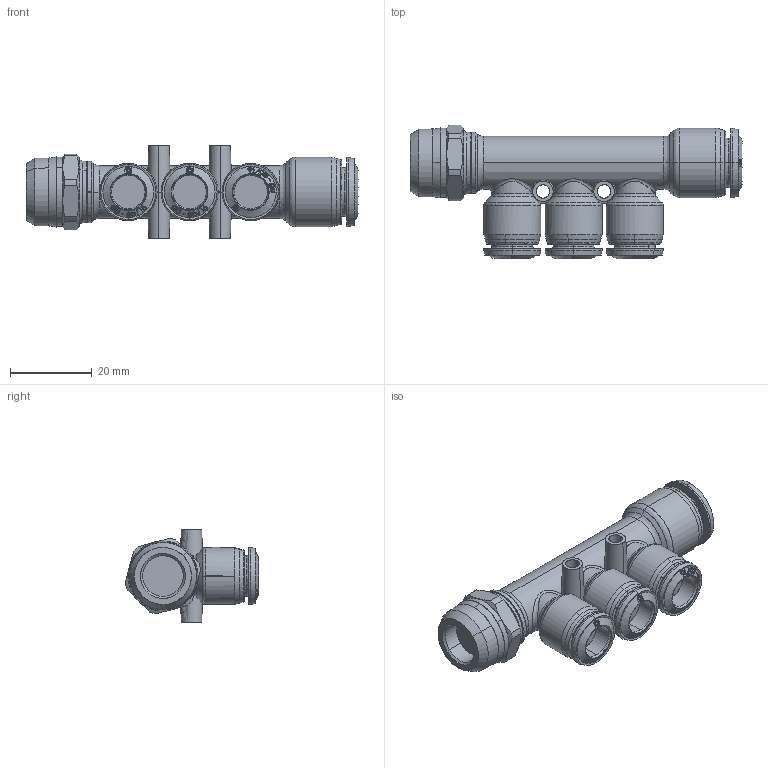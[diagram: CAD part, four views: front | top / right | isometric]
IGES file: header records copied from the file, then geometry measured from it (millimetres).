
Start section: SolidWorks IGES file using analytic representation for surfaces
Global section: file name: K:\Disegni Esecutivi\Serie 55000\ASSIEMI_55000\55360\ASSIEMI_PIENI_55360\5536000010.IGS; native system: SolidWorks 2007; preprocessor: SolidWorks 2007; author: cad02; date: 071130.134138; units: millimetre
Bounding box: 81.4 x 32.75 x 23 mm (x, y, z)
Surface area: 9258.4 mm2 (no closed solid volume)
Topology: 0 solids, 0 shells, 718 faces, 8206 edges, 8197 vertices
Faces by surface type: bspline 481, revolution 237
